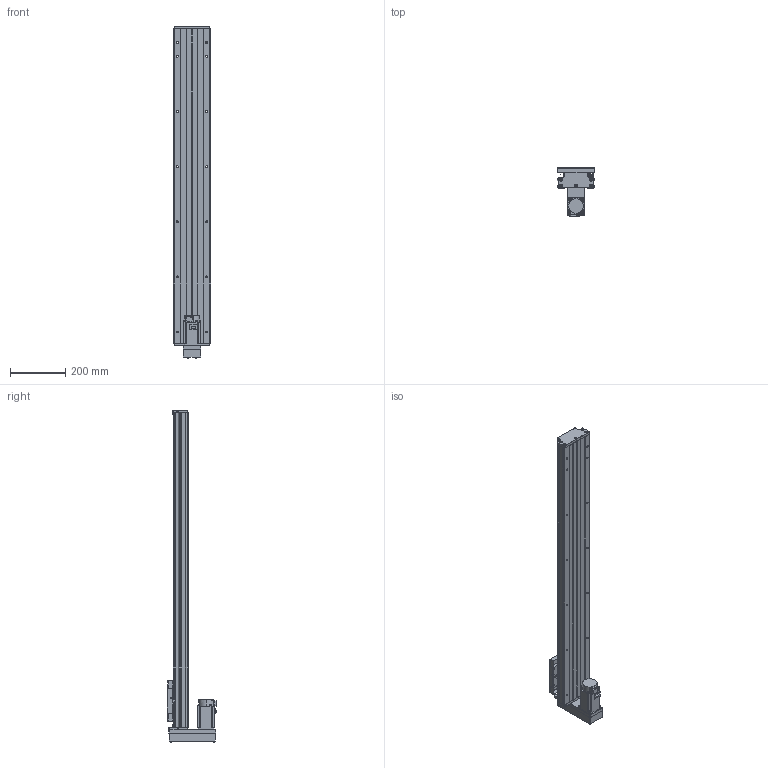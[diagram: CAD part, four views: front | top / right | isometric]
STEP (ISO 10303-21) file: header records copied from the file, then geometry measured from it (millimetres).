
FILE_DESCRIPTION (( 'STEP AP203' ), '1' );
FILE_NAME ('CTH130-950-BM-M40-C4.step', '2023-06-30T02:46:50', ( '微软用户' ), ( '微软中国' ), 'SwSTEP 2.0', 'SolidWorks 2020', '' );
FILE_SCHEMA (( 'CONFIG_CONTROL_DESIGN' ));
Length unit declared in the file: millimetre
Products named in the file (20): GB1155-6X6; CTH130-031; CTH130-950-BM-M40-C4; GTH14-001_950; GBT70.1 M5℅16; GBT 70.2-M3¡Á5_M3¡Á6; CTH130-002_GTH14-002; CTHA60-017; す晦芛蹟隊 M3℅5; GB T308.1-2013-6.35; EE_SX911P_R; HG-KN43J-S100; GTH14-004; CTHA60-016; GBT 70.2-M4¡Á35_M4¡Á35; GBT 70.1-M3℅5; GTH14-015-2_CTHA86-015-2; GTH14-005; GBT77-2000 M3×3; GTH14-033
Assembly tree (60 placements, depth 2):
  CTH130-950-BM-M40-C4
    GTH14-001_950
    CTH130-002_GTH14-002
    GB T308.1-2013-6.35  x2
    GTH14-004
    GTH14-005
    GB1155-6X6  x2
    GBT70.1 M5℅16  x10
    CTHA60-017  x3
    EE_SX911P_R  x3
    CTHA60-016  x2
    GBT 70.1-M3℅5  x6
    GBT77-2000 M3×3  x6
    CTH130-031
    GBT 70.2-M3¡Á5_M3¡Á6  x8
    す晦芛蹟隊 M3℅5  x6
    HG-KN43J-S100
    GBT 70.2-M4¡Á35_M4¡Á35  x4
    GTH14-015-2_CTHA86-015-2
    GTH14-033
Bounding box: 135 x 179.8 x 1204.2 mm (x, y, z)
Volume: 6307479.1 mm3; surface area: 1023796.4 mm2
Topology: 63 solids, 63 shells, 2455 faces, 5845 edges, 3617 vertices
Faces by surface type: plane 1314, cylinder 662, cone 299, torus 124, sphere 36, bspline 20
Entity records: 44540 total; most frequent: CARTESIAN_POINT 9947, DIRECTION 6522, ORIENTED_EDGE 6396, EDGE_CURVE 3198, AXIS2_PLACEMENT_3D 2236, LINE 2050, VECTOR 2050, VERTEX_POINT 2027
